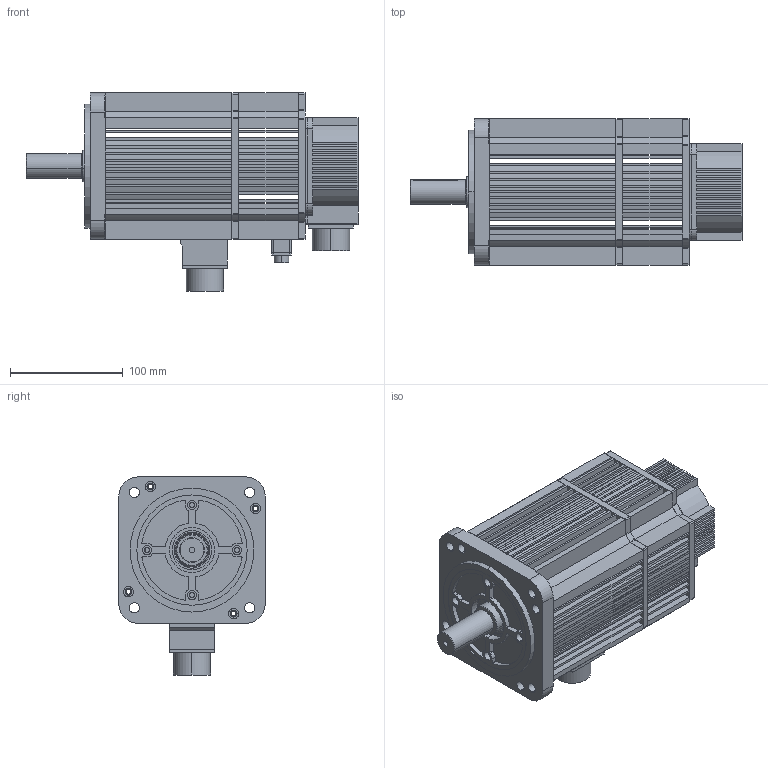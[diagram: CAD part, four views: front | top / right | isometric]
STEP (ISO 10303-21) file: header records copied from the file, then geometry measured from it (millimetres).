
FILE_DESCRIPTION (( 'STEP AP203' ), '1' );
FILE_NAME ('MS-130STE-M06025BZ-21P5.STEP', '2019-12-13T07:16:30', ( '' ), ( '' ), 'SwSTEP 2.0', 'SolidWorks 2016', '' );
FILE_SCHEMA (( 'CONFIG_CONTROL_DESIGN' ));
Length unit declared in the file: millimetre
Products named in the file (1): MS-130STE-M06025BZ-21P5
Bounding box: 295 x 130 x 176 mm (x, y, z)
Surface area: 249138.8 mm2 (no closed solid volume)
Topology: 0 solids, 41 shells, 862 faces, 2684 edges, 1859 vertices
Faces by surface type: plane 525, cylinder 327, cone 8, torus 2
Entity records: 30001 total; most frequent: CARTESIAN_POINT 5522, DIRECTION 5236, ORIENTED_EDGE 4686, EDGE_CURVE 2684, VERTEX_POINT 1859, VECTOR 1846, LINE 1846, AXIS2_PLACEMENT_3D 1695
